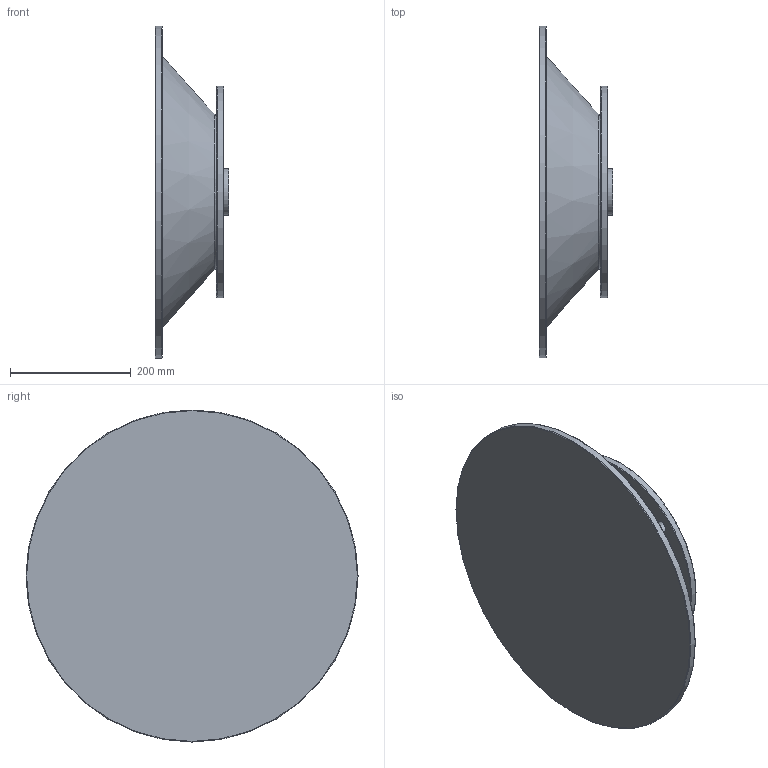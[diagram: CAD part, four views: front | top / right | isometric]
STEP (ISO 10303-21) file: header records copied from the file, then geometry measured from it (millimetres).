
FILE_DESCRIPTION((''),'2;1');
FILE_NAME('F:\PAWEŁ\ZLECENIA\2011 DualSystem\Przekładnie DK\001 Modele\DKAB150_\DK_150_STEP\180_B5_L113,5.stp','2012-08-20T12:07:22',('admin'),(''),'Autodesk Inventor 2009','Autodesk Inventor 2009','');
FILE_SCHEMA(('AUTOMOTIVE_DESIGN { 1 0 10303 214 1 1 1 1 }'));
Length unit declared in the file: millimetre
Products named in the file (1): 180_B5_L113,5
Bounding box: 122 x 550 x 550 mm (x, y, z)
Volume: 4655136.4 mm3; surface area: 932204 mm2
Topology: 1 solids, 1 shells, 30 faces, 58 edges, 36 vertices
Faces by surface type: plane 11, cylinder 6, bspline 6, torus 5, cone 2
Full cylindrical faces by diameter (mm): 78 x1, 232.006 x1, 250 x1, 350 x1, 550 x1
Entity records: 895 total; most frequent: CARTESIAN_POINT 281, DIRECTION 120, ORIENTED_EDGE 80, EDGE_LOOP 62, AXIS2_PLACEMENT_3D 55, EDGE_CURVE 40, VERTEX_POINT 36, FACE_BOUND 32
